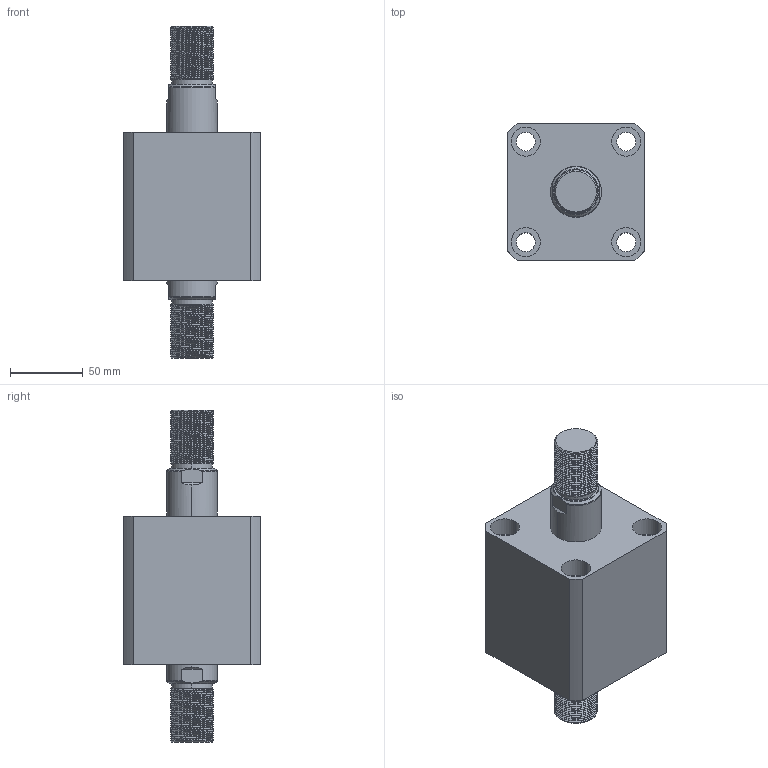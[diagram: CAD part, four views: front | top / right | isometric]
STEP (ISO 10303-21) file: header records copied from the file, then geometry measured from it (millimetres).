
FILE_DESCRIPTION (( 'STEP AP214' ), '1' );
FILE_NAME ('chtb-sw63x20w_asm.STEP', '2018-05-19T03:12:47', ( 'Windows' ), ( 'Microsoft' ), 'SwSTEP 2.0', 'SolidWorks 2015', '' );
FILE_SCHEMA (( 'AUTOMOTIVE_DESIGN' ));
Length unit declared in the file: millimetre
Products named in the file (4): CHTB-SW63X20WHSG; CHTB-SW63X20NBT; CHTB-63QG; chtb-sw63x20w_asm
Assembly tree (3 placements, depth 2):
  chtb-sw63x20w_asm
    CHTB-63QG
    CHTB-SW63X20NBT
    CHTB-SW63X20WHSG
Bounding box: 94 x 94 x 228 mm (x, y, z)
Volume: 868434.2 mm3; surface area: 147525.3 mm2
Topology: 3 solids, 3 shells, 296 faces, 841 edges, 569 vertices
Faces by surface type: cylinder 206, plane 46, bspline 16, cone 16, torus 12
Entity records: 27380 total; most frequent: CARTESIAN_POINT 20442, ORIENTED_EDGE 1674, DIRECTION 1166, EDGE_CURVE 837, VERTEX_POINT 569, AXIS2_PLACEMENT_3D 453, EDGE_LOOP 334, ADVANCED_FACE 296
